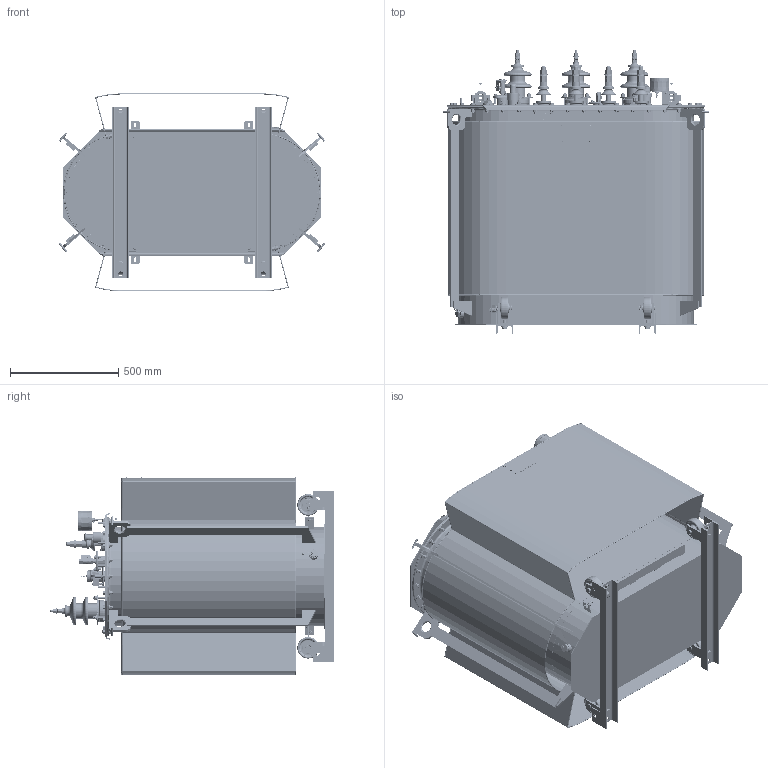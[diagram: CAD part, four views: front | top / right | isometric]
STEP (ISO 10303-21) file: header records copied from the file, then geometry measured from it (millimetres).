
FILE_DESCRIPTION(/* description */ (''),/* implementation_level */ '2;1');
FILE_NAME(/* name */ 'D:\SEARCHWORK\Готовые\Готовые ТМГ\ТМГ33\ТМГ33-400-10-УХЛ1-Х3К2\ТМГ33-400-10-УХЛ1-Х3К2.stp',/* time_stamp */ '2024-01-24T11:29:06+03:00',/* author */ ('55505'),/* organization */ (''),/* preprocessor_version */ 'ST-DEVELOPER v18.1',/* originating_system */ 'Autodesk Inventor 2021',/* authorisation */ '');
FILE_SCHEMA (('AUTOMOTIVE_DESIGN { 1 0 10303 214 3 1 1 }'));
Products named in the file (1): ВИЕЛ.672233.082
Bounding box: 1232.02 x 1310.9 x 918.27 mm (x, y, z)
Volume: 24428057.9 mm3; surface area: 14992514.3 mm2
Topology: 67 solids, 162 shells, 14463 faces, 35851 edges, 22577 vertices
Faces by surface type: plane 7410, cylinder 3758, bspline 1747, cone 847, torus 578, sphere 123
Full cylindrical faces by diameter (mm): 1.5 x4, 1.6 x7, 2 x4, 2.7 x1, 3 x5, 3.1 x4, 3.15 x3, 3.2 x6, 3.4 x4, 3.5 x1, 3.8 x4, 3.96 x21, 4 x52, 4.2 x6, 4.3 x14, 4.5 x27, 4.8 x12, 4.917 x3, 5 x32, 5.3 x5, 5.5 x2, 5.94 x11, 6 x98, 6.2 x5, 6.3 x18, 6.4 x12, 6.5 x45, 6.9 x6, 7 x12, 7.1 x2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
Entity records: 530377 total; most frequent: CARTESIAN_POINT 184949, ORIENTED_EDGE 71056, DIRECTION 64925, EDGE_CURVE 35548, AXIS2_PLACEMENT_3D 23833, VERTEX_POINT 22596, LINE 17259, VECTOR 17259
